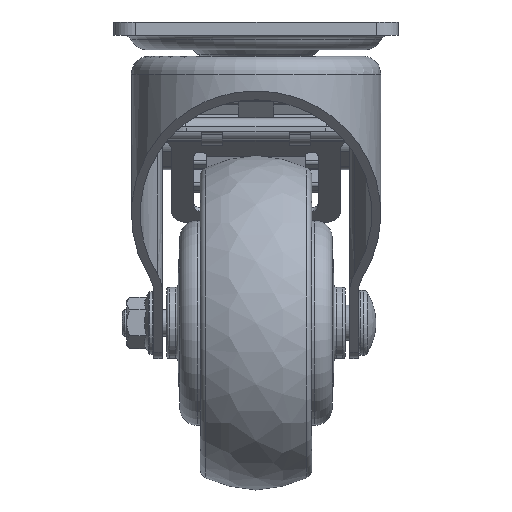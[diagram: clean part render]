
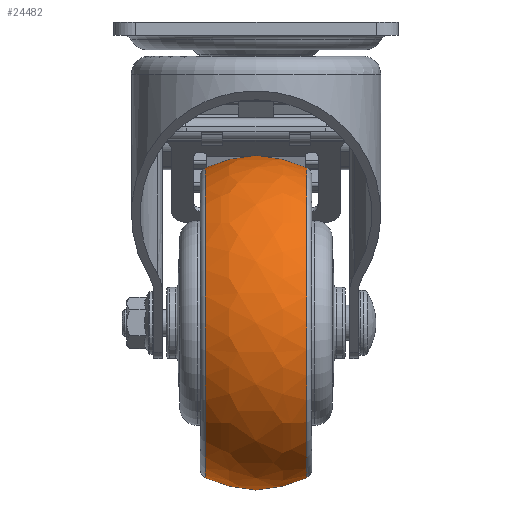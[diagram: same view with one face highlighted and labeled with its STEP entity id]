
A CAD part, left-side view. The second image highlights one B-rep face of the part: STEP entity #24482.
In plain terms, the highlighted free-form (B-spline) face has degree [2, 2] with [3, 9] control points.
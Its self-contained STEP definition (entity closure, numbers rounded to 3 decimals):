
#24410=CARTESIAN_POINT('',(66.243,-11.413,-12.4));
#24411=VERTEX_POINT('',#24410);
#24412=CARTESIAN_POINT('',(31.5,-11.413,-12.4));
#24413=DIRECTION('',(0.0,-1.0,0.0));
#24414=DIRECTION('',(1.0,0.0,0.0));
#24415=AXIS2_PLACEMENT_3D('',#24412,#24413,#24414);
#24416=CIRCLE('',#24415,34.743);
#24417=EDGE_CURVE('',#24411,#24411,#24416,.T.);
#24433=CARTESIAN_POINT('',(31.5,-11.413,-47.143));
#24434=CARTESIAN_POINT('',(31.5,0.,-52.999));
#24435=CARTESIAN_POINT('',(31.5,11.413,-47.143));
#24436=CARTESIAN_POINT('',(66.243,-11.413,-47.143));
#24437=CARTESIAN_POINT('',(72.099,0.,-52.999));
#24438=CARTESIAN_POINT('',(66.243,11.413,-47.143));
#24439=CARTESIAN_POINT('',(66.243,-11.413,-12.4));
#24440=CARTESIAN_POINT('',(72.099,0.,-12.4));
#24441=CARTESIAN_POINT('',(66.243,11.413,-12.4));
#24442=CARTESIAN_POINT('',(66.243,-11.413,22.343));
#24443=CARTESIAN_POINT('',(72.099,0.,28.199));
#24444=CARTESIAN_POINT('',(66.243,11.413,22.343));
#24445=CARTESIAN_POINT('',(31.5,-11.413,22.343));
#24446=CARTESIAN_POINT('',(31.5,0.,28.199));
#24447=CARTESIAN_POINT('',(31.5,11.413,22.343));
#24448=CARTESIAN_POINT('',(-3.243,-11.413,22.343));
#24449=CARTESIAN_POINT('',(-9.099,0.,28.199));
#24450=CARTESIAN_POINT('',(-3.243,11.413,22.343));
#24451=CARTESIAN_POINT('',(-3.243,-11.413,-12.4));
#24452=CARTESIAN_POINT('',(-9.099,0.,-12.4));
#24453=CARTESIAN_POINT('',(-3.243,11.413,-12.4));
#24454=CARTESIAN_POINT('',(-3.243,-11.413,-47.143));
#24455=CARTESIAN_POINT('',(-9.099,0.,-52.999));
#24456=CARTESIAN_POINT('',(-3.243,11.413,-47.143));
#24457=CARTESIAN_POINT('',(31.5,-11.413,-47.143));
#24458=CARTESIAN_POINT('',(31.5,0.,-52.999));
#24459=CARTESIAN_POINT('',(31.5,11.413,-47.143));
#24467=(BOUNDED_SURFACE()B_SPLINE_SURFACE(2,2,((#24433,#24436,#24439,#24442,#24445,#24448,#24451,#24454,#24457),(#24434,#24437,#24440,#24443,#24446,#24449,#24452,#24455,#24458),(#24435,#24438,#24441,#24444,#24447,#24450,#24453,#24456,#24459)),.UNSPECIFIED.,.F.,.T.,.U.)B_SPLINE_SURFACE_WITH_KNOTS((3,3),(3,2,2,2,3),(-0.474,0.474),(0.0,1.571,3.142,4.712,6.283),.UNSPECIFIED.)GEOMETRIC_REPRESENTATION_ITEM()RATIONAL_B_SPLINE_SURFACE(((1.0,0.707,1.0,0.707,1.0,0.707,1.0,0.707,1.0),(0.89,0.629,0.89,0.629,0.89,0.629,0.89,0.629,0.89),(1.0,0.707,1.0,0.707,1.0,0.707,1.0,0.707,1.0)))REPRESENTATION_ITEM('')SURFACE());
#24468=CARTESIAN_POINT('',(66.243,11.413,-12.4));
#24469=VERTEX_POINT('',#24468);
#24470=CARTESIAN_POINT('',(31.5,11.413,-12.4));
#24471=DIRECTION('',(0.0,-1.0,0.0));
#24472=DIRECTION('',(1.0,0.0,0.0));
#24473=AXIS2_PLACEMENT_3D('',#24470,#24471,#24472);
#24474=CIRCLE('',#24473,34.743);
#24475=EDGE_CURVE('',#24469,#24469,#24474,.T.);
#24476=ORIENTED_EDGE('',*,*,#24475,.T.);
#24477=EDGE_LOOP('',(#24476));
#24478=FACE_OUTER_BOUND('',#24477,.T.);
#24479=ORIENTED_EDGE('',*,*,#24417,.F.);
#24480=EDGE_LOOP('',(#24479));
#24481=FACE_BOUND('',#24480,.T.);
#24482=ADVANCED_FACE('',(#24478,#24481),#24467,.T.);
